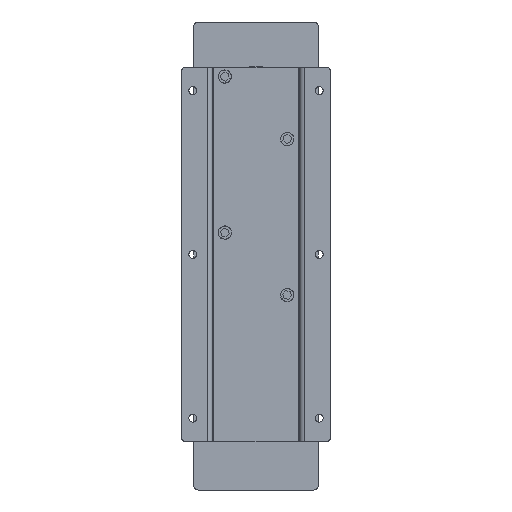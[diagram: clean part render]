
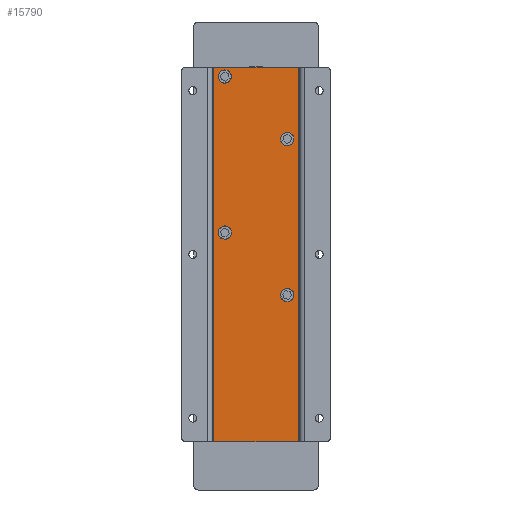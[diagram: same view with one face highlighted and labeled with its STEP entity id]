
A CAD part, left-side view. The second image highlights one B-rep face of the part: STEP entity #15790.
In plain terms, the highlighted planar face has unit normal (-1, 0, 0) as drawn and (0, 0, -1) by its records, which use the part's own axes.
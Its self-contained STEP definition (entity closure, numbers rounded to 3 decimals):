
#2920 = ORIENTED_EDGE ( 'NONE', *, *, #23903, .T. ) ;
#3031 = AXIS2_PLACEMENT_3D ( 'NONE', #34219, #47246, #41676 ) ;
#3297 = DIRECTION ( 'NONE',  ( 0., 1., 0. ) ) ;
#3651 = VERTEX_POINT ( 'NONE', #62559 ) ;
#3724 = VERTEX_POINT ( 'NONE', #20697 ) ;
#3757 = VERTEX_POINT ( 'NONE', #58375 ) ;
#3974 = VERTEX_POINT ( 'NONE', #46659 ) ;
#4087 = ORIENTED_EDGE ( 'NONE', *, *, #73079, .T. ) ;
#4223 = DIRECTION ( 'NONE',  ( 0., 0., 1. ) ) ;
#4322 = EDGE_CURVE ( 'NONE', #42082, #3724, #73992, .T. ) ;
#4824 = AXIS2_PLACEMENT_3D ( 'NONE', #75415, #89804, #69384 ) ;
#6572 = FACE_OUTER_BOUND ( 'NONE', #9152, .T. ) ;
#7560 = CARTESIAN_POINT ( 'NONE',  ( 26., -20., -2. ) ) ;
#9152 = EDGE_LOOP ( 'NONE', ( #85763, #51774, #58228, #49939 ) ) ;
#12313 = CIRCLE ( 'NONE', #22781, 3.25 ) ;
#13048 = ORIENTED_EDGE ( 'NONE', *, *, #74081, .T. ) ;
#13246 = VECTOR ( 'NONE', #18135, 1000. ) ;
#14218 = EDGE_CURVE ( 'NONE', #72799, #3651, #12313, .T. ) ;
#14448 = VERTEX_POINT ( 'NONE', #47517 ) ;
#15698 = CARTESIAN_POINT ( 'NONE',  ( -17.25, 20., -2. ) ) ;
#15790 = ADVANCED_FACE ( 'NONE', ( #61967, #89831, #19609, #27078, #6572 ), #20094, .F. ) ;
#16894 = CARTESIAN_POINT ( 'NONE',  ( -120., 27., -2. ) ) ;
#17029 = AXIS2_PLACEMENT_3D ( 'NONE', #80835, #17124, #89623 ) ;
#17124 = DIRECTION ( 'NONE',  ( 0., 0., 1. ) ) ;
#18135 = DIRECTION ( 'NONE',  ( 1., 0., 0. ) ) ;
#19609 = FACE_BOUND ( 'NONE', #26832, .T. ) ;
#20094 = PLANE ( 'NONE',  #33404 ) ;
#20697 = CARTESIAN_POINT ( 'NONE',  ( 120., -27., -2. ) ) ;
#21440 = DIRECTION ( 'NONE',  ( 1., 0., 0. ) ) ;
#22781 = AXIS2_PLACEMENT_3D ( 'NONE', #52247, #4223, #23851 ) ;
#23851 = DIRECTION ( 'NONE',  ( 1., 0., 0. ) ) ;
#23903 = EDGE_CURVE ( 'NONE', #3974, #3757, #76686, .T. ) ;
#24447 = VERTEX_POINT ( 'NONE', #15698 ) ;
#24554 = AXIS2_PLACEMENT_3D ( 'NONE', #62193, #46858, #91453 ) ;
#24600 = AXIS2_PLACEMENT_3D ( 'NONE', #7560, #50404, #58317 ) ;
#24948 = VECTOR ( 'NONE', #84802, 1000. ) ;
#25640 = CIRCLE ( 'NONE', #4824, 3.25 ) ;
#26832 = EDGE_LOOP ( 'NONE', ( #39857, #4087 ) ) ;
#27078 = FACE_BOUND ( 'NONE', #62609, .T. ) ;
#28935 = CARTESIAN_POINT ( 'NONE',  ( -70.75, -20., -2. ) ) ;
#29162 = DIRECTION ( 'NONE',  ( 0., -1., 0. ) ) ;
#29523 = AXIS2_PLACEMENT_3D ( 'NONE', #71325, #69161, #47300 ) ;
#30392 = LINE ( 'NONE', #58788, #40211 ) ;
#31005 = EDGE_CURVE ( 'NONE', #46166, #77255, #55122, .T. ) ;
#33404 = AXIS2_PLACEMENT_3D ( 'NONE', #48494, #40124, #41983 ) ;
#34219 = CARTESIAN_POINT ( 'NONE',  ( -74., -20., -2. ) ) ;
#37488 = CARTESIAN_POINT ( 'NONE',  ( 120., 27., -2. ) ) ;
#39330 = EDGE_CURVE ( 'NONE', #14448, #65986, #25640, .T. ) ;
#39857 = ORIENTED_EDGE ( 'NONE', *, *, #78590, .T. ) ;
#40124 = DIRECTION ( 'NONE',  ( 0., 0., 1. ) ) ;
#40211 = VECTOR ( 'NONE', #3297, 1000. ) ;
#40652 = DIRECTION ( 'NONE',  ( 0., 0., 1. ) ) ;
#41089 = AXIS2_PLACEMENT_3D ( 'NONE', #63769, #40652, #21440 ) ;
#41314 = LINE ( 'NONE', #86307, #71583 ) ;
#41676 = DIRECTION ( 'NONE',  ( 1., 0., 0. ) ) ;
#41983 = DIRECTION ( 'NONE',  ( 1., 0., 0. ) ) ;
#42082 = VERTEX_POINT ( 'NONE', #67705 ) ;
#46166 = VERTEX_POINT ( 'NONE', #37488 ) ;
#46659 = CARTESIAN_POINT ( 'NONE',  ( 22.75, -20., -2. ) ) ;
#46858 = DIRECTION ( 'NONE',  ( 0., 0., 1. ) ) ;
#47246 = DIRECTION ( 'NONE',  ( 0., 0., 1. ) ) ;
#47300 = DIRECTION ( 'NONE',  ( 1., 0., 0. ) ) ;
#47517 = CARTESIAN_POINT ( 'NONE',  ( -117.25, 20., -2. ) ) ;
#48494 = CARTESIAN_POINT ( 'NONE',  ( 0., 0., -2. ) ) ;
#49939 = ORIENTED_EDGE ( 'NONE', *, *, #4322, .F. ) ;
#50404 = DIRECTION ( 'NONE',  ( 0., 0., 1. ) ) ;
#50971 = EDGE_LOOP ( 'NONE', ( #91146, #62726 ) ) ;
#51774 = ORIENTED_EDGE ( 'NONE', *, *, #31005, .F. ) ;
#52247 = CARTESIAN_POINT ( 'NONE',  ( -74., -20., -2. ) ) ;
#54671 = CARTESIAN_POINT ( 'NONE',  ( -110.75, 20., -2. ) ) ;
#55122 = LINE ( 'NONE', #91795, #24948 ) ;
#55540 = EDGE_LOOP ( 'NONE', ( #59182, #66310 ) ) ;
#57172 = CIRCLE ( 'NONE', #17029, 3.25 ) ;
#58109 = CIRCLE ( 'NONE', #3031, 3.25 ) ;
#58228 = ORIENTED_EDGE ( 'NONE', *, *, #81512, .F. ) ;
#58317 = DIRECTION ( 'NONE',  ( 1., 0., 0. ) ) ;
#58375 = CARTESIAN_POINT ( 'NONE',  ( 29.25, -20., -2. ) ) ;
#58788 = CARTESIAN_POINT ( 'NONE',  ( 120., -27., -2. ) ) ;
#59182 = ORIENTED_EDGE ( 'NONE', *, *, #14218, .T. ) ;
#60510 = CARTESIAN_POINT ( 'NONE',  ( 120., -27., -2. ) ) ;
#61967 = FACE_BOUND ( 'NONE', #50971, .T. ) ;
#62193 = CARTESIAN_POINT ( 'NONE',  ( -114., 20., -2. ) ) ;
#62559 = CARTESIAN_POINT ( 'NONE',  ( -77.25, -20., -2. ) ) ;
#62609 = EDGE_LOOP ( 'NONE', ( #13048, #2920 ) ) ;
#62726 = ORIENTED_EDGE ( 'NONE', *, *, #39330, .T. ) ;
#63769 = CARTESIAN_POINT ( 'NONE',  ( 26., -20., -2. ) ) ;
#64672 = CIRCLE ( 'NONE', #24554, 3.25 ) ;
#64718 = CIRCLE ( 'NONE', #24600, 3.25 ) ;
#65168 = CIRCLE ( 'NONE', #29523, 3.25 ) ;
#65700 = EDGE_CURVE ( 'NONE', #65986, #14448, #64672, .T. ) ;
#65986 = VERTEX_POINT ( 'NONE', #54671 ) ;
#66310 = ORIENTED_EDGE ( 'NONE', *, *, #69102, .T. ) ;
#67705 = CARTESIAN_POINT ( 'NONE',  ( -120., -27., -2. ) ) ;
#69102 = EDGE_CURVE ( 'NONE', #3651, #72799, #58109, .T. ) ;
#69161 = DIRECTION ( 'NONE',  ( 0., 0., 1. ) ) ;
#69384 = DIRECTION ( 'NONE',  ( 1., 0., 0. ) ) ;
#71325 = CARTESIAN_POINT ( 'NONE',  ( -14., 20., -2. ) ) ;
#71583 = VECTOR ( 'NONE', #29162, 1000. ) ;
#72799 = VERTEX_POINT ( 'NONE', #28935 ) ;
#73079 = EDGE_CURVE ( 'NONE', #24447, #73240, #57172, .T. ) ;
#73240 = VERTEX_POINT ( 'NONE', #82648 ) ;
#73992 = LINE ( 'NONE', #60510, #13246 ) ;
#74081 = EDGE_CURVE ( 'NONE', #3757, #3974, #64718, .T. ) ;
#75415 = CARTESIAN_POINT ( 'NONE',  ( -114., 20., -2. ) ) ;
#76686 = CIRCLE ( 'NONE', #41089, 3.25 ) ;
#77255 = VERTEX_POINT ( 'NONE', #16894 ) ;
#78590 = EDGE_CURVE ( 'NONE', #73240, #24447, #65168, .T. ) ;
#80835 = CARTESIAN_POINT ( 'NONE',  ( -14., 20., -2. ) ) ;
#81512 = EDGE_CURVE ( 'NONE', #3724, #46166, #30392, .T. ) ;
#82648 = CARTESIAN_POINT ( 'NONE',  ( -10.75, 20., -2. ) ) ;
#84797 = EDGE_CURVE ( 'NONE', #77255, #42082, #41314, .T. ) ;
#84802 = DIRECTION ( 'NONE',  ( -1., 0., 0. ) ) ;
#85763 = ORIENTED_EDGE ( 'NONE', *, *, #84797, .F. ) ;
#86307 = CARTESIAN_POINT ( 'NONE',  ( -120., -27., -2. ) ) ;
#89623 = DIRECTION ( 'NONE',  ( 1., 0., 0. ) ) ;
#89804 = DIRECTION ( 'NONE',  ( 0., 0., 1. ) ) ;
#89831 = FACE_BOUND ( 'NONE', #55540, .T. ) ;
#91146 = ORIENTED_EDGE ( 'NONE', *, *, #65700, .T. ) ;
#91453 = DIRECTION ( 'NONE',  ( 1., 0., 0. ) ) ;
#91795 = CARTESIAN_POINT ( 'NONE',  ( 120., 27., -2. ) ) ;
